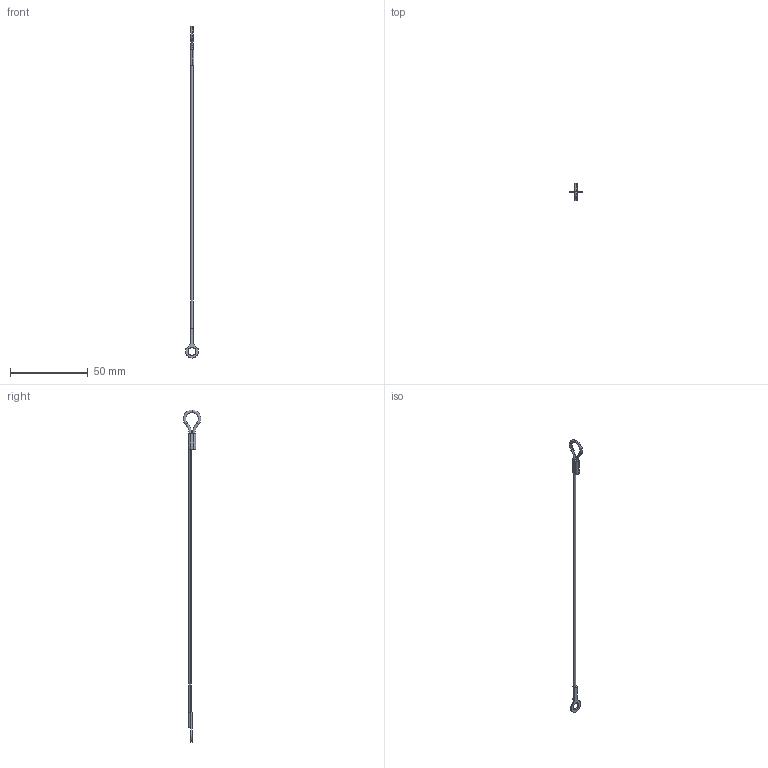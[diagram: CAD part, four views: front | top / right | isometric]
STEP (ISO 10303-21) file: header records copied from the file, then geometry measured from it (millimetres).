
FILE_DESCRIPTION (( 'STEP AP203' ), '1' );
FILE_NAME ('LA1075.I04-203G1.step', '2026-03-23T16:41:12', ( '' ), ( '' ), 'SwSTEP 2.0', 'SolidWorks 2019', '' );
FILE_SCHEMA (( 'CONFIG_CONTROL_DESIGN' ));
Length unit declared in the file: millimetre
Products named in the file (1): LA1075.I04-203G1
Bounding box: 8.36 x 11.16 x 212.99 mm (x, y, z)
Volume: 595.2 mm3; surface area: 1366.1 mm2
Topology: 1 solids, 1 shells, 30 faces, 70 edges, 44 vertices
Faces by surface type: plane 12, cylinder 10, torus 8
Entity records: 953 total; most frequent: DIRECTION 170, CARTESIAN_POINT 145, ORIENTED_EDGE 140, EDGE_CURVE 70, AXIS2_PLACEMENT_3D 69, VERTEX_POINT 44, CIRCLE 38, EDGE_LOOP 36
